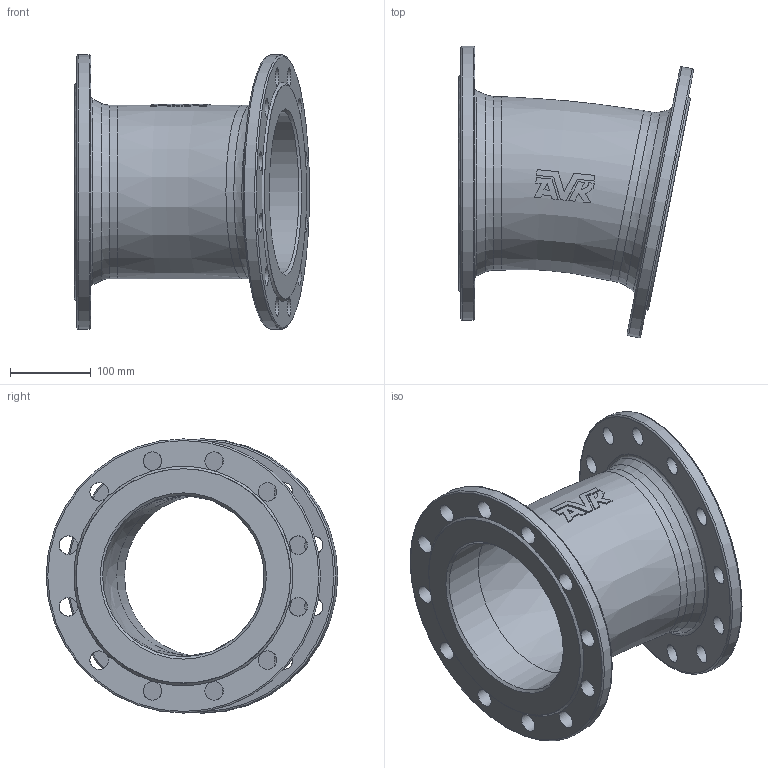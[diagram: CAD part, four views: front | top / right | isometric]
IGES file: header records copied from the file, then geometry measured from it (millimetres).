
Start section: SolidWorks IGES file using analytic representation for surfaces
Global section: file name: \\avksan2\techshare\PBM outline export from Enovia\O_712_0110_DN200_1X_REV01.igs; native system: SolidWorks 2022; preprocessor: SolidWorks 2022; author: pbm; date: 240815.104406; units: millimetre
Bounding box: 291.3 x 361.55 x 340 mm (x, y, z)
Surface area: 577561.4 mm2 (no closed solid volume)
Topology: 0 solids, 0 shells, 93 faces, 497 edges, 427 vertices
Faces by surface type: revolution 52, bspline 41
